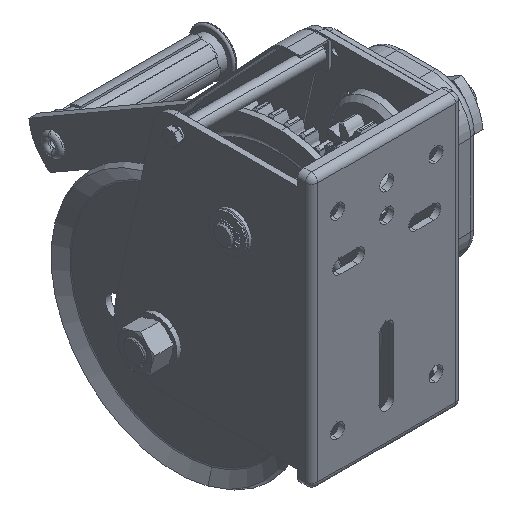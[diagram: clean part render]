
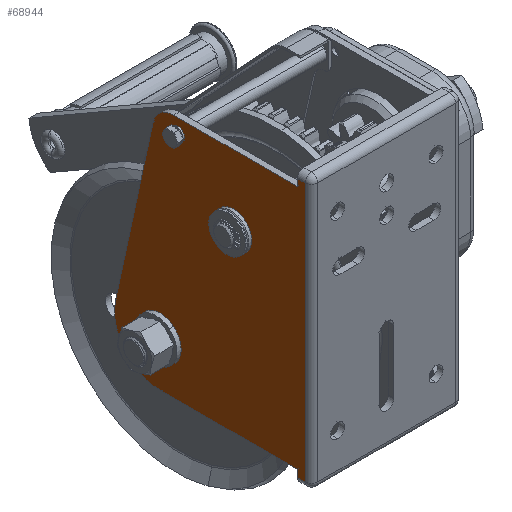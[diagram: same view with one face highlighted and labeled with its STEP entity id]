
A CAD part, isometric view. The second image highlights one B-rep face of the part: STEP entity #68944.
In plain terms, the highlighted planar face has unit normal (-1, 0, 0).
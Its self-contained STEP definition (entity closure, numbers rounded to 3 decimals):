
#1846 = CARTESIAN_POINT ( 'NONE',  ( -53.5, 42.408, 34.5 ) ) ;
#1930 = CARTESIAN_POINT ( 'NONE',  ( -53.5, 0., 10.5 ) ) ;
#3126 = LINE ( 'NONE', #9871, #37853 ) ;
#3740 = VERTEX_POINT ( 'NONE', #1930 ) ;
#4179 = AXIS2_PLACEMENT_3D ( 'NONE', #4560, #16881, #65180 ) ;
#4315 = DIRECTION ( 'NONE',  ( 0., 0., -1. ) ) ;
#4469 = ORIENTED_EDGE ( 'NONE', *, *, #70890, .T. ) ;
#4560 = CARTESIAN_POINT ( 'NONE',  ( -53.5, 14.111, -222.809 ) ) ;
#4657 = ORIENTED_EDGE ( 'NONE', *, *, #55643, .F. ) ;
#5354 = PLANE ( 'NONE',  #4179 ) ;
#5429 = AXIS2_PLACEMENT_3D ( 'NONE', #1846, #44251, #38712 ) ;
#5435 = VERTEX_POINT ( 'NONE', #10728 ) ;
#5738 = FACE_BOUND ( 'NONE', #14410, .T. ) ;
#6906 = ORIENTED_EDGE ( 'NONE', *, *, #16019, .F. ) ;
#7277 = AXIS2_PLACEMENT_3D ( 'NONE', #67564, #49339, #4315 ) ;
#8230 = VERTEX_POINT ( 'NONE', #36491 ) ;
#8252 = VECTOR ( 'NONE', #50198, 1000. ) ;
#8310 = DIRECTION ( 'NONE',  ( 1., 0., 0. ) ) ;
#8598 = VERTEX_POINT ( 'NONE', #28138 ) ;
#8667 = EDGE_CURVE ( 'NONE', #15487, #8230, #75186, .T. ) ;
#9093 = DIRECTION ( 'NONE',  ( 0., 0., -1. ) ) ;
#9871 = CARTESIAN_POINT ( 'NONE',  ( -53.5, 14.111, 54.5 ) ) ;
#10200 = VERTEX_POINT ( 'NONE', #33213 ) ;
#10391 = ORIENTED_EDGE ( 'NONE', *, *, #73832, .T. ) ;
#10728 = CARTESIAN_POINT ( 'NONE',  ( -53.5, -51., 54.5 ) ) ;
#11261 = CARTESIAN_POINT ( 'NONE',  ( -53.5, -45.5, 49.5 ) ) ;
#11364 = AXIS2_PLACEMENT_3D ( 'NONE', #43095, #35975, #60902 ) ;
#11869 = DIRECTION ( 'NONE',  ( 0., 0., -1. ) ) ;
#14093 = DIRECTION ( 'NONE',  ( 1., 0., 0. ) ) ;
#14410 = EDGE_LOOP ( 'NONE', ( #14798, #32620 ) ) ;
#14545 = AXIS2_PLACEMENT_3D ( 'NONE', #39245, #63392, #32513 ) ;
#14798 = ORIENTED_EDGE ( 'NONE', *, *, #77181, .T. ) ;
#15487 = VERTEX_POINT ( 'NONE', #71259 ) ;
#16019 = EDGE_CURVE ( 'NONE', #25413, #8598, #71005, .T. ) ;
#16402 = DIRECTION ( 'NONE',  ( 0., -1., 0. ) ) ;
#16881 = DIRECTION ( 'NONE',  ( 1., 0., 0. ) ) ;
#17316 = CIRCLE ( 'NONE', #55233, 10.5 ) ;
#18480 = ORIENTED_EDGE ( 'NONE', *, *, #56609, .T. ) ;
#18929 = CARTESIAN_POINT ( 'NONE',  ( -53.5, -51., -222.809 ) ) ;
#20165 = AXIS2_PLACEMENT_3D ( 'NONE', #63349, #8310, #9093 ) ;
#20506 = VECTOR ( 'NONE', #16402, 1000. ) ;
#21366 = ORIENTED_EDGE ( 'NONE', *, *, #36130, .T. ) ;
#21852 = VERTEX_POINT ( 'NONE', #33853 ) ;
#21943 = LINE ( 'NONE', #46477, #20506 ) ;
#22924 = LINE ( 'NONE', #47068, #42134 ) ;
#24011 = CARTESIAN_POINT ( 'NONE',  ( -53.5, 57.066, 37.684 ) ) ;
#24134 = CARTESIAN_POINT ( 'NONE',  ( -53.5, 39.5, 39.5 ) ) ;
#25413 = VERTEX_POINT ( 'NONE', #31410 ) ;
#25558 = LINE ( 'NONE', #30345, #71523 ) ;
#26763 = DIRECTION ( 'NONE',  ( 0., 0., -1. ) ) ;
#26838 = DIRECTION ( 'NONE',  ( 0., 0., -1. ) ) ;
#28138 = CARTESIAN_POINT ( 'NONE',  ( -53.5, 83.762, -85.223 ) ) ;
#28247 = CIRCLE ( 'NONE', #5429, 15. ) ;
#28254 = VERTEX_POINT ( 'NONE', #63853 ) ;
#30023 = ORIENTED_EDGE ( 'NONE', *, *, #8667, .T. ) ;
#30345 = CARTESIAN_POINT ( 'NONE',  ( -53.5, -45.5, -222.809 ) ) ;
#31364 = EDGE_CURVE ( 'NONE', #57289, #61685, #48675, .T. ) ;
#31410 = CARTESIAN_POINT ( 'NONE',  ( -53.5, 51.042, -124.483 ) ) ;
#31589 = LINE ( 'NONE', #18929, #8252 ) ;
#31594 = CIRCLE ( 'NONE', #11364, 8. ) ;
#32513 = DIRECTION ( 'NONE',  ( 0., 0., -1. ) ) ;
#32620 = ORIENTED_EDGE ( 'NONE', *, *, #75835, .T. ) ;
#33112 = CARTESIAN_POINT ( 'NONE',  ( -53.5, -45.5, 54.5 ) ) ;
#33213 = CARTESIAN_POINT ( 'NONE',  ( -53.5, 0., -10.5 ) ) ;
#33252 = DIRECTION ( 'NONE',  ( 0., 1., 0. ) ) ;
#33435 = ORIENTED_EDGE ( 'NONE', *, *, #60534, .T. ) ;
#33853 = CARTESIAN_POINT ( 'NONE',  ( -53.5, -45.5, -129.5 ) ) ;
#34286 = VERTEX_POINT ( 'NONE', #11261 ) ;
#35016 = LINE ( 'NONE', #53231, #52130 ) ;
#35472 = FACE_BOUND ( 'NONE', #42781, .T. ) ;
#35629 = DIRECTION ( 'NONE',  ( 1., 0., 0. ) ) ;
#35975 = DIRECTION ( 'NONE',  ( 1., 0., 0. ) ) ;
#36130 = EDGE_CURVE ( 'NONE', #61685, #57289, #31594, .T. ) ;
#36491 = CARTESIAN_POINT ( 'NONE',  ( -53.5, 39.5, 42.7 ) ) ;
#36572 = VERTEX_POINT ( 'NONE', #33112 ) ;
#37853 = VECTOR ( 'NONE', #33252, 1000. ) ;
#37857 = EDGE_LOOP ( 'NONE', ( #21366, #43155 ) ) ;
#38712 = DIRECTION ( 'NONE',  ( 0., 0., -1. ) ) ;
#38725 = CARTESIAN_POINT ( 'NONE',  ( -53.5, 0., 0. ) ) ;
#39245 = CARTESIAN_POINT ( 'NONE',  ( -53.5, 52.1, -92.1 ) ) ;
#40909 = CIRCLE ( 'NONE', #20165, 3.2 ) ;
#41446 = CIRCLE ( 'NONE', #7277, 10.5 ) ;
#42134 = VECTOR ( 'NONE', #71237, 1000. ) ;
#42148 = CARTESIAN_POINT ( 'NONE',  ( -53.5, 52.1, -100.1 ) ) ;
#42781 = EDGE_LOOP ( 'NONE', ( #30023, #78191 ) ) ;
#43095 = CARTESIAN_POINT ( 'NONE',  ( -53.5, 52.1, -92.1 ) ) ;
#43155 = ORIENTED_EDGE ( 'NONE', *, *, #31364, .T. ) ;
#44251 = DIRECTION ( 'NONE',  ( 1., 0., 0. ) ) ;
#44628 = EDGE_CURVE ( 'NONE', #28254, #34286, #78202, .T. ) ;
#45208 = VECTOR ( 'NONE', #48947, 1000. ) ;
#46167 = VERTEX_POINT ( 'NONE', #70239 ) ;
#46477 = CARTESIAN_POINT ( 'NONE',  ( -53.5, 14.111, -124.483 ) ) ;
#46652 = VECTOR ( 'NONE', #77042, 1000. ) ;
#47068 = CARTESIAN_POINT ( 'NONE',  ( -53.5, 109.161, -202.164 ) ) ;
#47335 = FACE_OUTER_BOUND ( 'NONE', #62464, .T. ) ;
#48675 = CIRCLE ( 'NONE', #14545, 8. ) ;
#48947 = DIRECTION ( 'NONE',  ( 0., -1., 0. ) ) ;
#49339 = DIRECTION ( 'NONE',  ( 1., 0., 0. ) ) ;
#50198 = DIRECTION ( 'NONE',  ( 0., 0., 1. ) ) ;
#50303 = CARTESIAN_POINT ( 'NONE',  ( -53.5, 52.1, -84.1 ) ) ;
#51047 = ORIENTED_EDGE ( 'NONE', *, *, #74232, .T. ) ;
#51386 = DIRECTION ( 'NONE',  ( 1., 0., 0. ) ) ;
#52130 = VECTOR ( 'NONE', #52458, 1000. ) ;
#52317 = EDGE_CURVE ( 'NONE', #25413, #46167, #21943, .T. ) ;
#52458 = DIRECTION ( 'NONE',  ( 0., 0., -1. ) ) ;
#52972 = VERTEX_POINT ( 'NONE', #59435 ) ;
#53231 = CARTESIAN_POINT ( 'NONE',  ( -53.5, -45.5, -222.809 ) ) ;
#55233 = AXIS2_PLACEMENT_3D ( 'NONE', #38725, #51386, #26838 ) ;
#55643 = EDGE_CURVE ( 'NONE', #61410, #28254, #28247, .T. ) ;
#56064 = CARTESIAN_POINT ( 'NONE',  ( -53.5, 52.1, -92.1 ) ) ;
#56364 = ORIENTED_EDGE ( 'NONE', *, *, #77155, .T. ) ;
#56603 = EDGE_CURVE ( 'NONE', #8230, #15487, #40909, .T. ) ;
#56609 = EDGE_CURVE ( 'NONE', #5435, #36572, #3126, .T. ) ;
#57289 = VERTEX_POINT ( 'NONE', #50303 ) ;
#58604 = CARTESIAN_POINT ( 'NONE',  ( -53.5, 14.111, -129.5 ) ) ;
#58729 = AXIS2_PLACEMENT_3D ( 'NONE', #24134, #35629, #11869 ) ;
#58980 = LINE ( 'NONE', #58604, #45208 ) ;
#59435 = CARTESIAN_POINT ( 'NONE',  ( -53.5, -51., -129.5 ) ) ;
#60534 = EDGE_CURVE ( 'NONE', #36572, #34286, #35016, .T. ) ;
#60902 = DIRECTION ( 'NONE',  ( 0., 0., -1. ) ) ;
#60994 = ORIENTED_EDGE ( 'NONE', *, *, #44628, .F. ) ;
#61410 = VERTEX_POINT ( 'NONE', #24011 ) ;
#61685 = VERTEX_POINT ( 'NONE', #42148 ) ;
#62464 = EDGE_LOOP ( 'NONE', ( #10391, #18480, #33435, #60994, #4657, #4469, #6906, #66136, #51047, #56364 ) ) ;
#63349 = CARTESIAN_POINT ( 'NONE',  ( -53.5, 39.5, 39.5 ) ) ;
#63392 = DIRECTION ( 'NONE',  ( 1., 0., 0. ) ) ;
#63425 = AXIS2_PLACEMENT_3D ( 'NONE', #56064, #14093, #26763 ) ;
#63853 = CARTESIAN_POINT ( 'NONE',  ( -53.5, 42.408, 49.5 ) ) ;
#65180 = DIRECTION ( 'NONE',  ( 0., 0., -1. ) ) ;
#66136 = ORIENTED_EDGE ( 'NONE', *, *, #52317, .T. ) ;
#67564 = CARTESIAN_POINT ( 'NONE',  ( -53.5, 0., 0. ) ) ;
#68944 = ADVANCED_FACE ( 'NONE', ( #77079, #5738, #35472, #47335 ), #5354, .F. ) ;
#70239 = CARTESIAN_POINT ( 'NONE',  ( -53.5, -45.5, -124.483 ) ) ;
#70890 = EDGE_CURVE ( 'NONE', #61410, #8598, #22924, .T. ) ;
#71005 = CIRCLE ( 'NONE', #63425, 32.4 ) ;
#71237 = DIRECTION ( 'NONE',  ( 0., 0.212, -0.977 ) ) ;
#71259 = CARTESIAN_POINT ( 'NONE',  ( -53.5, 39.5, 36.3 ) ) ;
#71523 = VECTOR ( 'NONE', #72702, 1000. ) ;
#72702 = DIRECTION ( 'NONE',  ( 0., 0., -1. ) ) ;
#73832 = EDGE_CURVE ( 'NONE', #52972, #5435, #31589, .T. ) ;
#74232 = EDGE_CURVE ( 'NONE', #46167, #21852, #25558, .T. ) ;
#75186 = CIRCLE ( 'NONE', #58729, 3.2 ) ;
#75835 = EDGE_CURVE ( 'NONE', #3740, #10200, #17316, .T. ) ;
#77042 = DIRECTION ( 'NONE',  ( 0., -1., 0. ) ) ;
#77079 = FACE_BOUND ( 'NONE', #37857, .T. ) ;
#77155 = EDGE_CURVE ( 'NONE', #21852, #52972, #58980, .T. ) ;
#77181 = EDGE_CURVE ( 'NONE', #10200, #3740, #41446, .T. ) ;
#77442 = CARTESIAN_POINT ( 'NONE',  ( -53.5, 14.111, 49.5 ) ) ;
#78191 = ORIENTED_EDGE ( 'NONE', *, *, #56603, .T. ) ;
#78202 = LINE ( 'NONE', #77442, #46652 ) ;
